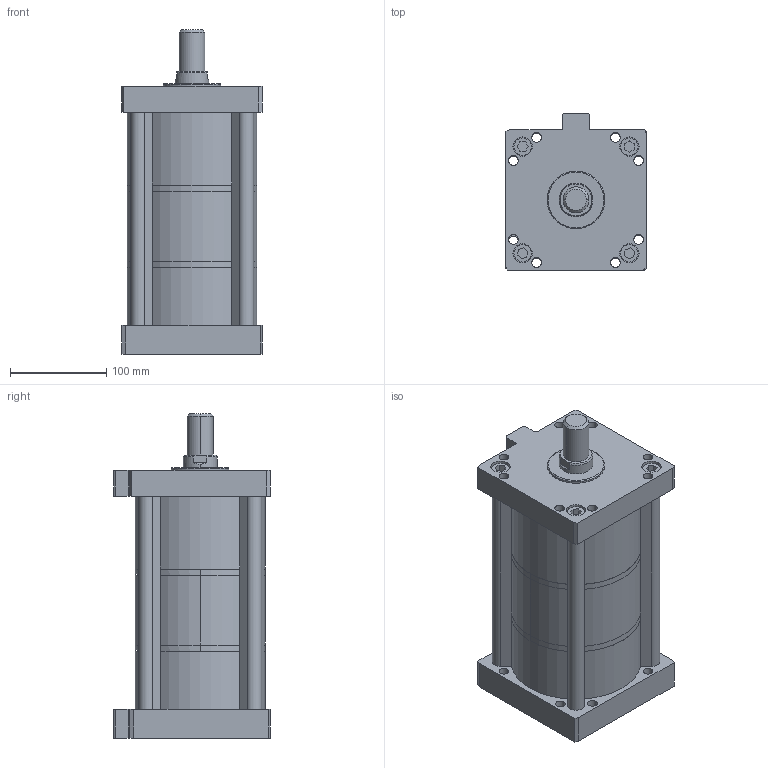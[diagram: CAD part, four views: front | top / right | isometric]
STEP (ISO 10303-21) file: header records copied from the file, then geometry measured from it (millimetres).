
FILE_DESCRIPTION (( 'STEP AP203' ), '1' );
FILE_NAME ('MHK-125-50-E-3.STEP', '2016-03-30T09:14:22', ( 'WIN' ), ( '' ), 'SwSTEP 2.0', 'SolidWorks 2014', '' );
FILE_SCHEMA (( 'CONFIG_CONTROL_DESIGN' ));
Length unit declared in the file: millimetre
Products named in the file (1): MHK-125-50-E-3
Bounding box: 146 x 163 x 337.5 mm (x, y, z)
Volume: 4550082.4 mm3; surface area: 412812.5 mm2
Topology: 4 solids, 8 shells, 299 faces, 726 edges, 474 vertices
Faces by surface type: plane 149, cylinder 136, cone 12, torus 2
Entity records: 8943 total; most frequent: DIRECTION 1606, CARTESIAN_POINT 1528, ORIENTED_EDGE 1444, EDGE_CURVE 722, AXIS2_PLACEMENT_3D 592, VERTEX_POINT 474, LINE 422, VECTOR 422
